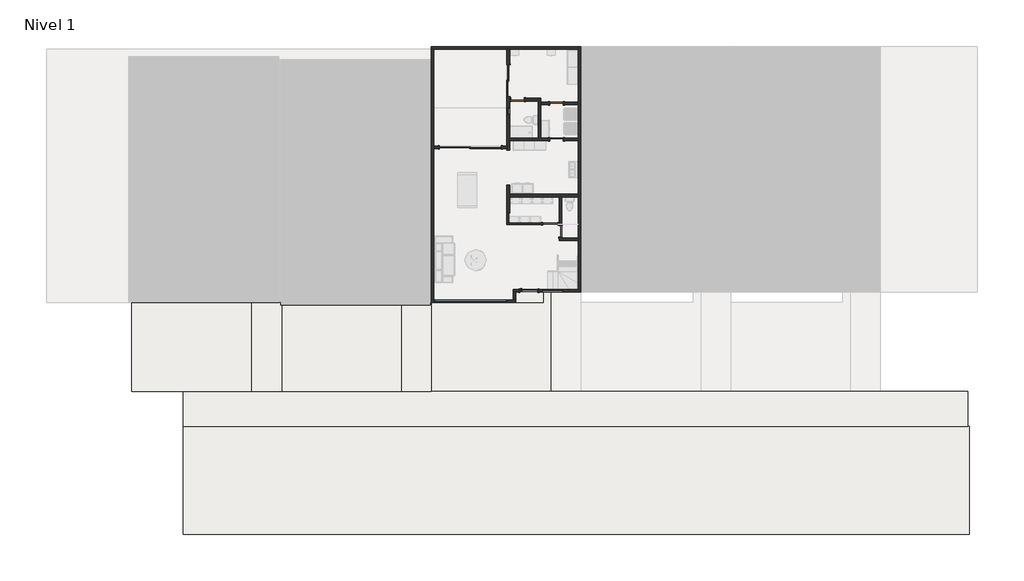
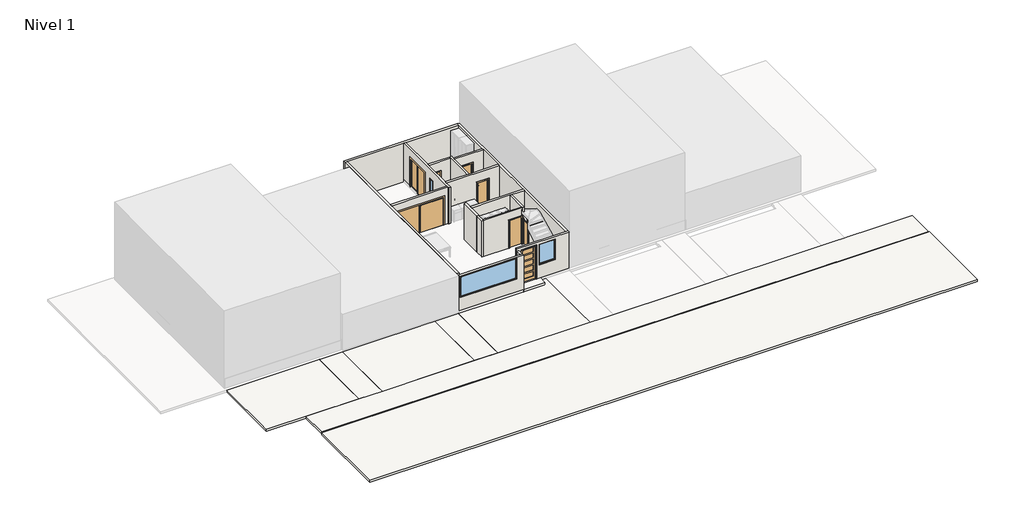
# One storey, part 1 of 2: 18 walls, 8 doors, 8 slabs, 3 windows.
"""IFC4 building model written with IfcOpenShell, lengths in millimetres."""

from ifc_helpers import new_model, si_unit, frame, origin, origin_with_axes, place, context, project, spatial, polyline, outline, extrude, faceted_brep, transform, mapped, element, save
from components import m_puerta_corredera_dos_hojas_1700_x_2000mm_09eee391, m_puerta_corredera_dos_hojas_3_5_x_2_1_a05799e0, m_puerta_interior_simple_5_paneles_vert_madera_m_puerta_cb21d540, m_simple_a_ras_63_ancho_2eab0376, m_simple_a_ras_0762_x_2032mm_3f592dcc, m_simple_a_ras_0762_x_2032mm_ffa3ef71, m_simple_a_ras_0864_x_2134mm_3838e64d, m_fijo_40_x_2_0_2_413fcb28, m_fijo_1_2_x_1_6_cb8421e6, m_fijo_4_1_x_1_6_05132500

model = new_model("IFC4")

# Units and contexts
model_context = context("Model", 3, world=origin())
ifc_project = project(units=[si_unit("LENGTHUNIT", "METRE", prefix="MILLI")], contexts=[model_context])

# Site, building, storey
site = spatial("IfcSite", under=ifc_project)
building = spatial("IfcBuilding", under=site)
storey = spatial("IfcBuildingStorey", under=building, Name="Nivel 1", Elevation=0.0)

# Doors
placement = place(None, origin())
m_puerta_corredera_dos_hojas_1700_x_2000mm_shape = m_puerta_corredera_dos_hojas_1700_x_2000mm_09eee391(model_context)
element("IfcDoor", 1, ObjectType="M_Puerta-Corredera-Dos_hojas : 1700 x 2000mm", at=placement, inside=storey, context=model_context, shape_type="MappedRepresentation", body=[
    mapped(m_puerta_corredera_dos_hojas_1700_x_2000mm_shape, transform((-5417.5352198, 11205.2742772, -38.0), x_axis=(0.0, 1.0, 0.0), y_axis=(-1.0, 0.0, 0.0), z_axis=(0.0, 0.0, 1.0))),
])
m_puerta_corredera_dos_hojas_3_5_x_2_1_shape = m_puerta_corredera_dos_hojas_3_5_x_2_1_a05799e0(model_context)
element("IfcDoor", 2, ObjectType="M_Puerta-Corredera-Dos_hojas : 3.5 x 2.1", at=placement, inside=storey, context=model_context, shape_type="MappedRepresentation", body=[
    mapped(m_puerta_corredera_dos_hojas_3_5_x_2_1_shape, transform((-7682.0352198, 7575.2742772, -38.0), x_axis=(-1.0, 0.0, 0.0), y_axis=(0.0, -1.0, 0.0), z_axis=(0.0, 0.0, 1.0))),
])
m_puerta_interior_simple_5_paneles_vert_madera_m_puerta_shape = m_puerta_interior_simple_5_paneles_vert_madera_m_puerta_cb21d540(model_context)
element("IfcDoor", 3, ObjectType="M_Puerta-Interior-Simple-5_paneles_vert.-Madera : M_Puerta-Interior-Simple-5_paneles_vert.-Madera", at=placement, inside=storey, context=model_context, shape_type="MappedRepresentation", body=[
    mapped(m_puerta_interior_simple_5_paneles_vert_madera_m_puerta_shape, transform((-4380.5352198, -651.5507228, 0.0), x_axis=(1.0, 0.0, 0.0), y_axis=(0.0, 1.0, 0.0), z_axis=(0.0, 0.0, 1.0))),
])
m_simple_a_ras_63_ancho_shape = m_simple_a_ras_63_ancho_2eab0376(model_context)
element("IfcDoor", 4, ObjectType="M_Simple-A ras : .63 ancho", at=placement, inside=storey, context=model_context, shape_type="MappedRepresentation", body=[
    mapped(m_simple_a_ras_63_ancho_shape, transform((-2594.5352198, 2700.2742772, 0.0), x_axis=(0.0, -1.0, 0.0), y_axis=(1.0, 0.0, 0.0), z_axis=(0.0, 0.0, 1.0))),
])
m_simple_a_ras_0762_x_2032mm_shape = m_simple_a_ras_0762_x_2032mm_3f592dcc(model_context)
element("IfcDoor", 5, ObjectType="M_Simple-A ras : 0762 x 2032mm", at=placement, inside=storey, context=model_context, shape_type="MappedRepresentation", body=[
    mapped(m_simple_a_ras_0762_x_2032mm_shape, transform((-2825.5352198, 7905.2742772, 0.0), x_axis=(1.0, 0.0, 0.0), y_axis=(0.0, 1.0, 0.0), z_axis=(0.0, 0.0, 1.0))),
])
element("IfcDoor", 6, ObjectType="M_Simple-A ras : 0762 x 2032mm", at=placement, inside=storey, context=model_context, shape_type="MappedRepresentation", body=[
    mapped(m_simple_a_ras_0762_x_2032mm_shape, transform((-5017.5352198, 10143.2742772, 0.0), x_axis=(-1.0, 0.0, 0.0), y_axis=(0.0, -1.0, 0.0), z_axis=(0.0, 0.0, 1.0))),
])
m_simple_a_ras_0762_x_2032mm_2_shape = m_simple_a_ras_0762_x_2032mm_ffa3ef71(model_context)
element("IfcDoor", 7, ObjectType="M_Simple-A ras : 0762 x 2032mm", at=placement, inside=storey, context=model_context, shape_type="MappedRepresentation", body=[
    mapped(m_simple_a_ras_0762_x_2032mm_2_shape, transform((-2825.5352198, 9925.2742772, 0.0), x_axis=(-1.0, 0.0, 0.0), y_axis=(0.0, -1.0, 0.0), z_axis=(0.0, 0.0, 1.0))),
])
m_simple_a_ras_0864_x_2134mm_shape = m_simple_a_ras_0864_x_2134mm_3838e64d(model_context)
element("IfcDoor", 8, ObjectType="M_Simple-A ras : 0864 x 2134mm", at=placement, inside=storey, context=model_context, shape_type="MappedRepresentation", body=[
    mapped(m_simple_a_ras_0864_x_2134mm_shape, transform((-3178.5352198, 3125.2742772, 0.0), x_axis=(1.0, 0.0, 0.0), y_axis=(0.0, 1.0, 0.0), z_axis=(0.0, 0.0, 1.0))),
])

# Slabs
element("IfcSlab", 9, ObjectType="Genérico 150 mm", at=placement, inside=storey, context=model_context, shape_type="SweptSolid", body=[
    extrude(outline(polyline([(-3557.5352198, -729.7257228), (-3144.5352198, -729.7257228), (-3144.5352198, -6329.7257228), (-9894.5352198, -6329.7257228), (-9894.5352198, -1319.7257228), (-3557.5352198, -1319.7257228), (-3557.5352198, -729.7257228)])), frame((0.0, 0.0, -350.0), z_axis=(0.0, 0.0, 1.0), x_axis=(1.0, 0.0, 0.0)), (0.0, 0.0, 1.0), 150.0),
])
element("IfcSlab", 10, ObjectType="Genérico 150 mm", at=placement, inside=storey, context=model_context, shape_type="SweptSolid", body=[
    extrude(outline(polyline([(-23903.5352198, -6329.7257228), (-9894.5352198, -6329.7257228), (20385.4647802, -6329.7257228), (20385.4647802, -8329.7257228), (-23903.5352198, -8329.7257228), (-23903.5352198, -6329.7257228)])), frame((0.0, 0.0, -350.0), z_axis=(0.0, 0.0, 1.0), x_axis=(1.0, 0.0, 0.0)), (0.0, 0.0, 1.0), 150.0),
])
element("IfcSlab", 11, ObjectType="Genérico 150 mm", at=placement, inside=storey, context=model_context, shape_type="SweptSolid", body=[
    extrude(outline(polyline([(20476.4647802, -8329.7257228), (20476.4647802, -14411.7257228), (-23903.5352198, -14411.7257228), (-23903.5352198, -8329.7257228), (20476.4647802, -8329.7257228)])), frame((0.0, 0.0, -400.0), z_axis=(0.0, 0.0, 1.0), x_axis=(1.0, 0.0, 0.0)), (0.0, 0.0, 1.0), 150.0),
])
element("IfcSlab", 12, ObjectType="Genérico 200mm", at=placement, inside=storey, context=model_context, shape_type="SweptSolid", body=[
    extrude(outline(polyline([(-5114.5352198, -1319.7257228), (-5114.5352198, -729.7257228), (-3557.5352198, -729.7257228), (-3557.5352198, -1319.7257228), (-5114.5352198, -1319.7257228)])), frame((0.0, 0.0, -200.0), z_axis=(0.0, 0.0, 1.0), x_axis=(1.0, 0.0, 0.0)), (0.0, 0.0, 1.0), 200.0),
])
element("IfcSlab", 13, ObjectType="Genérico 150 mm", at=placement, inside=storey, context=model_context, shape_type="SweptSolid", body=[
    extrude(outline(polyline([(-11594.5352198, -1319.7257228), (-11594.5352198, -6329.7257228), (-18344.5352198, -6329.7257228), (-18344.5352198, -1319.7257228), (-12007.5352198, -1319.7257228), (-11594.5352198, -1319.7257228)])), frame((0.0, 0.0, -350.0), z_axis=(0.0, 0.0, 1.0), x_axis=(1.0, 0.0, 0.0)), (0.0, 0.0, 1.0), 150.0),
])
element("IfcSlab", 14, ObjectType="Genérico 150 mm", at=placement, inside=storey, context=model_context, shape_type="SweptSolid", body=[
    extrude(outline(polyline([(-11594.5352198, -1319.7257228), (-9894.5352198, -1319.7257228), (-9894.5352198, -6329.7257228), (-11594.5352198, -6329.7257228), (-11594.5352198, -1319.7257228)])), frame((0.0, 0.0, -350.0), z_axis=(0.0, 0.0, 1.0), x_axis=(1.0, 0.0, 0.0)), (0.0, 0.0, 1.0), 150.0),
])
element("IfcSlab", 15, ObjectType="Genérico 150 mm", at=placement, inside=storey, context=model_context, shape_type="SweptSolid", body=[
    extrude(outline(polyline([(-20044.5352198, -1319.7257228), (-20044.5352198, -6329.7257228), (-26794.5352198, -6329.7257228), (-26794.5352198, -1319.7257228), (-20457.5352198, -1319.7257228), (-20044.5352198, -1319.7257228)])), frame((0.0, 0.0, -350.0), z_axis=(0.0, 0.0, 1.0), x_axis=(1.0, 0.0, 0.0)), (0.0, 0.0, 1.0), 150.0),
])
element("IfcSlab", 16, ObjectType="Genérico 150 mm", at=placement, inside=storey, context=model_context, shape_type="SweptSolid", body=[
    extrude(outline(polyline([(-20044.5352198, -1319.7257228), (-18344.5352198, -1319.7257228), (-18344.5352198, -6329.7257228), (-20044.5352198, -6329.7257228), (-20044.5352198, -1319.7257228)])), frame((0.0, 0.0, -350.0), z_axis=(0.0, 0.0, 1.0), x_axis=(1.0, 0.0, 0.0)), (0.0, 0.0, 1.0), 150.0),
])

# Walls
element("IfcWall", 17, ObjectType="Genérico - 15.00", at=placement, inside=storey, context=model_context, shape_type="Brep", body=[
    faceted_brep([(-1444.5352198, -579.7257228, 0.0), (-1444.5352198, 13145.2742772, 0.0), (-1444.5352198, 13145.2742772, 2800.0), (-1444.5352198, -579.7257228, 2800.0), (-1594.5352198, -579.7257228, 0.0), (-1594.5352198, -579.7257228, 2800.0), (-1594.5352198, 4650.2742772, 2800.0), (-1594.5352198, 4800.2742772, 2800.0), (-1594.5352198, 7830.2742772, 2800.0), (-1594.5352198, 7980.2742772, 2800.0), (-1594.5352198, 9850.2742772, 2800.0), (-1594.5352198, 10000.2742772, 2800.0), (-1594.5352198, 12995.2742772, 2800.0), (-1594.5352198, 13145.2742772, 2800.0), (-1594.5352198, 13145.2742772, 0.0), (-1594.5352198, 10000.2742772, 0.0), (-1594.5352198, 9850.2742772, 0.0), (-1594.5352198, 7980.2742772, 0.0), (-1594.5352198, 7830.2742772, 0.0), (-1594.5352198, 4800.2742772, 0.0), (-1594.5352198, 4650.2742772, 0.0), (-1594.5352198, 2330.2742772, 0.0), (-1594.5352198, 2180.2742772, 0.0)], [[[0, 1, 2, 3]], [[4, 5, 6, 7, 8, 9, 10, 11, 12, 13, 14, 15, 16, 17, 18, 19, 20, 21, 22]], [[1, 0, 4, 22, 21, 20, 19, 18, 17, 16, 15, 14]], [[3, 2, 13, 12, 11, 10, 9, 8, 7, 6, 5]], [[2, 1, 14, 13]], [[0, 3, 5, 4]]]),
])
element("IfcWall", 18, ObjectType="Genérico - 15.00", at=placement, inside=storey, context=model_context, shape_type="Brep", body=[
    faceted_brep([(-1594.5352198, 13145.2742772, -535.1768208), (-9894.5352198, 13145.2742772, -535.1768208), (-9894.5352198, 13145.2742772, 2800.0), (-1594.5352198, 13145.2742772, 2800.0), (-1594.5352198, 13145.2742772, 0.0), (-1594.5352198, 12995.2742772, -535.1768208), (-1594.5352198, 12995.2742772, 2800.0), (-5469.5352198, 12995.2742772, 2800.0), (-5619.5352198, 12995.2742772, 2800.0), (-9744.5352198, 12995.2742772, 2800.0), (-9894.5352198, 12995.2742772, 2800.0), (-9894.5352198, 12995.2742772, -276.0521472), (-9894.5352198, 12995.2742772, -535.1768208)], [[[0, 1, 2, 3, 4]], [[5, 6, 7, 8, 9, 10, 11, 12]], [[1, 0, 5, 12]], [[3, 2, 10, 9, 8, 7, 6]], [[0, 4, 3, 6, 5]], [[2, 1, 12, 11, 10]]]),
])
element("IfcWall", 19, ObjectType="Genérico - 15.00", at=placement, inside=storey, context=model_context, shape_type="Brep", body=[
    faceted_brep([(-9894.5352198, 12995.2742772, -276.0521472), (-9894.5352198, -1169.7257228, -276.0521472), (-9894.5352198, -1169.7257228, 0.0), (-9894.5352198, -1169.7257228, 2650.0), (-9894.5352198, -1169.7257228, 2800.0), (-9894.5352198, 12995.2742772, 2800.0), (-9744.5352198, 12995.2742772, -276.0521472), (-9744.5352198, 12995.2742772, 2800.0), (-9744.5352198, 7523.2742772, 2800.0), (-9744.5352198, 7373.2742772, 2800.0), (-9744.5352198, -1169.7257228, 2800.0), (-9744.5352198, -1169.7257228, -276.0521472)], [[[0, 1, 2, 3, 4, 5]], [[6, 7, 8, 9, 10, 11]], [[1, 0, 6, 11]], [[5, 4, 10, 9, 8, 7]], [[0, 5, 7, 6]], [[4, 3, 2, 1, 11, 10]]]),
])
element("IfcWall", 20, ObjectType="Genérico - 15.00", at=placement, inside=storey, context=model_context, shape_type="SweptSolid", body=[
    extrude(outline(polyline([(0.0, -3714.5352198), (0.0, -3206.5352198), (2032.0, -3206.5352198), (2032.0, -2444.5352198), (0.0, -2444.5352198), (0.0, -1594.5352198), (2800.0, -1594.5352198), (2800.0, -3714.5352198), (0.0, -3714.5352198)])), frame((0.0, 9850.2742772, 0.0), z_axis=(0.0, 1.0, 0.0), x_axis=(0.0, 0.0, 1.0)), (0.0, 0.0, 1.0), 150.0),
])
element("IfcWall", 21, ObjectType="Genérico - 15.00", at=placement, inside=storey, context=model_context, shape_type="Brep", body=[
    faceted_brep([(-1594.5352198, 7980.2742772, 0.0), (-2444.5352198, 7980.2742772, 0.0), (-2444.5352198, 7980.2742772, 2032.0), (-3206.5352198, 7980.2742772, 2032.0), (-3206.5352198, 7980.2742772, 0.0), (-3714.5352198, 7980.2742772, 0.0), (-3864.5352198, 7980.2742772, 0.0), (-5469.5352198, 7980.2742772, 0.0), (-5469.5352198, 7980.2742772, 2800.0), (-3864.5352198, 7980.2742772, 2800.0), (-3714.5352198, 7980.2742772, 2800.0), (-1594.5352198, 7980.2742772, 2800.0), (-2444.5352198, 7830.2742772, 2032.0), (-2444.5352198, 7830.2742772, 0.0), (-1594.5352198, 7830.2742772, 0.0), (-1594.5352198, 7830.2742772, 2800.0), (-5469.5352198, 7830.2742772, 2800.0), (-5469.5352198, 7830.2742772, 0.0), (-3206.5352198, 7830.2742772, 0.0), (-3206.5352198, 7830.2742772, 2032.0)], [[[0, 1, 2, 3, 4, 5, 6, 7, 8, 9, 10, 11]], [[12, 13, 14, 15, 16, 17, 18, 19]], [[18, 17, 7, 6, 5, 4]], [[14, 13, 1, 0]], [[11, 10, 9, 8, 16, 15]], [[0, 11, 15, 14]], [[8, 7, 17, 16]], [[2, 1, 13, 12]], [[3, 2, 12, 19]], [[4, 3, 19, 18]]]),
])
element("IfcWall", 22, ObjectType="Genérico - 15.00", at=placement, inside=storey, context=model_context, shape_type="Brep", body=[
    faceted_brep([(-1594.5352198, 4800.2742772, 0.0), (-5469.5352198, 4800.2742772, 0.0), (-5469.5352198, 4800.2742772, 2800.0), (-1594.5352198, 4800.2742772, 2800.0), (-1594.5352198, 4650.2742772, 0.0), (-1594.5352198, 4650.2742772, 2800.0), (-2519.5352198, 4650.2742772, 2800.0), (-2669.5352198, 4650.2742772, 2800.0), (-5469.5352198, 4650.2742772, 2800.0), (-5469.5352198, 4650.2742772, 0.0), (-2669.5352198, 4650.2742772, 0.0), (-2519.5352198, 4650.2742772, 0.0)], [[[0, 1, 2, 3]], [[4, 5, 6, 7, 8, 9, 10, 11]], [[1, 0, 4, 11, 10, 9]], [[3, 2, 8, 7, 6, 5]], [[0, 3, 5, 4]], [[2, 1, 9, 8]]]),
])
element("IfcWall", 23, ObjectType="Genérico - 15.00", at=placement, inside=storey, context=model_context, shape_type="Brep", body=[
    faceted_brep([(-1594.5352198, 2330.2742772, 0.0), (-2519.5352198, 2330.2742772, 0.0), (-2669.5352198, 2330.2742772, 0.0), (-2669.5352198, 2330.2742772, 1723.3133105), (-2669.5352198, 2330.2742772, 1925.0), (-1594.5352198, 2330.2742772, 1925.0), (-1594.5352198, 2180.2742772, 0.0), (-1594.5352198, 2180.2742772, 1925.0), (-2669.5352198, 2180.2742772, 1925.0), (-2669.5352198, 2180.2742772, 0.0)], [[[0, 1, 2, 3, 4, 5]], [[6, 7, 8, 9]], [[2, 1, 0, 6, 9]], [[5, 4, 8, 7]], [[0, 5, 7, 6]], [[4, 3, 2, 9, 8]]]),
])
element("IfcWall", 24, ObjectType="Genérico - 15.00", at=placement, inside=storey, context=model_context, shape_type="Brep", body=[
    faceted_brep([(-5264.5352198, -579.7257228, 2800.0), (-1594.5352198, -579.7257228, 2800.0), (-1444.5352198, -579.7257228, 2800.0), (-1444.5352198, -579.7257228, 0.0), (-1594.5352198, -579.7257228, 0.0), (-3855.5352198, -579.7257228, 0.0), (-3855.5352198, -579.7257228, 2595.0), (-4905.5352198, -579.7257228, 2595.0), (-4905.5352198, -579.7257228, 0.0), (-5264.5352198, -579.7257228, 0.0), (-3646.5352198, -579.7257228, 2600.0), (-3646.5352198, -579.7257228, 1000.0), (-2446.5352198, -579.7257228, 1000.0), (-2446.5352198, -579.7257228, 2600.0), (-1444.5352198, -729.7257228, 2800.0), (-5264.5352198, -729.7257228, 2800.0), (-5264.5352198, -729.7257228, 2650.0), (-5264.5352198, -729.7257228, 0.0), (-5114.5352198, -729.7257228, 0.0), (-4905.5352198, -729.7257228, 0.0), (-4905.5352198, -729.7257228, 2595.0), (-3855.5352198, -729.7257228, 2595.0), (-3855.5352198, -729.7257228, 0.0), (-1444.5352198, -729.7257228, 0.0), (-3646.5352198, -729.7257228, 1000.0), (-3646.5352198, -729.7257228, 2600.0), (-2446.5352198, -729.7257228, 2600.0), (-2446.5352198, -729.7257228, 1000.0)], [[[0, 1, 2, 3, 4, 5, 6, 7, 8, 9], [10, 11, 12, 13]], [[14, 15, 16, 17, 18, 19, 20, 21, 22, 23], [24, 25, 26, 27]], [[17, 9, 8, 19, 18]], [[3, 23, 22, 5, 4]], [[2, 1, 0, 15, 14]], [[0, 9, 17, 16, 15]], [[24, 11, 10, 25]], [[26, 13, 12, 27]], [[11, 24, 27, 12]], [[13, 26, 25, 10]], [[3, 2, 14, 23]], [[21, 6, 5, 22]], [[6, 21, 20, 7]], [[7, 20, 19, 8]]]),
])
element("IfcWall", 25, ObjectType="Genérico - 15.00", at=placement, inside=storey, context=model_context, shape_type="Brep", body=[
    faceted_brep([(-9894.5352198, -1319.7257228, 0.0), (-5114.5352198, -1319.7257228, 0.0), (-5114.5352198, -1319.7257228, 2650.0), (-9819.5352198, -1319.7257228, 2650.0), (-9894.5352198, -1319.7257228, 2650.0), (-5632.0352198, -1319.7257228, 2600.0), (-5632.0352198, -1319.7257228, 1000.0), (-9732.0352198, -1319.7257228, 1000.0), (-9732.0352198, -1319.7257228, 2600.0), (-5114.5352198, -1169.7257228, 0.0), (-5264.5352198, -1169.7257228, 0.0), (-9894.5352198, -1169.7257228, 0.0), (-9894.5352198, -1169.7257228, 2650.0), (-9819.5352198, -1169.7257228, 2650.0), (-5264.5352198, -1169.7257228, 2650.0), (-5114.5352198, -1169.7257228, 2650.0), (-5632.0352198, -1169.7257228, 1000.0), (-5632.0352198, -1169.7257228, 2600.0), (-9732.0352198, -1169.7257228, 2600.0), (-9732.0352198, -1169.7257228, 1000.0)], [[[0, 1, 2, 3, 4], [5, 6, 7, 8]], [[9, 10, 11, 12, 13, 14, 15], [16, 17, 18, 19]], [[1, 0, 11, 10, 9]], [[2, 1, 9, 15]], [[16, 6, 5, 17]], [[18, 8, 7, 19]], [[6, 16, 19, 7]], [[8, 18, 17, 5]], [[0, 4, 12, 11]], [[12, 4, 3, 13]], [[3, 2, 15, 14, 13]]]),
])
element("IfcWall", 26, ObjectType="Genérico - 15.00", at=placement, inside=storey, context=model_context, shape_type="SweptSolid", body=[
    extrude(outline(polyline([(-5114.5352198, -729.7257228), (-5114.5352198, -1169.7257228), (-5264.5352198, -1169.7257228), (-5264.5352198, -729.7257228), (-5114.5352198, -729.7257228)])), origin_with_axes(), (0.0, 0.0, 1.0), 2650.0),
])
element("IfcWall", 27, ObjectType="Genérico - 15.00", at=placement, inside=storey, context=model_context, shape_type="Brep", body=[
    faceted_brep([(-5619.5352198, 7305.2742772, 0.0), (-5619.5352198, 7305.2742772, 2800.0), (-5619.5352198, 7373.2742772, 2800.0), (-5619.5352198, 7523.2742772, 2800.0), (-5619.5352198, 12995.2742772, 2800.0), (-5619.5352198, 12995.2742772, 0.0), (-5619.5352198, 12105.2742772, 0.0), (-5619.5352198, 12105.2742772, 2162.0), (-5619.5352198, 10305.2742772, 2162.0), (-5619.5352198, 10305.2742772, 0.0), (-5619.5352198, 7523.2742772, 0.0), (-5619.5352198, 7373.2742772, 0.0), (-5619.5352198, 9290.2742772, 2100.0), (-5619.5352198, 9290.2742772, 100.0), (-5619.5352198, 9690.2742772, 100.0), (-5619.5352198, 9690.2742772, 2100.0), (-5469.5352198, 7305.2742772, 2800.0), (-5469.5352198, 7305.2742772, 0.0), (-5469.5352198, 7830.2742772, 0.0), (-5469.5352198, 7980.2742772, 0.0), (-5469.5352198, 10068.2742772, 0.0), (-5469.5352198, 10218.2742772, 0.0), (-5469.5352198, 10305.2742772, 0.0), (-5469.5352198, 10305.2742772, 2162.0), (-5469.5352198, 12105.2742772, 2162.0), (-5469.5352198, 12105.2742772, 0.0), (-5469.5352198, 12995.2742772, 0.0), (-5469.5352198, 12995.2742772, 2800.0), (-5469.5352198, 10218.2742772, 2800.0), (-5469.5352198, 10068.2742772, 2800.0), (-5469.5352198, 7980.2742772, 2800.0), (-5469.5352198, 7830.2742772, 2800.0), (-5469.5352198, 9290.2742772, 100.0), (-5469.5352198, 9290.2742772, 2100.0), (-5469.5352198, 9690.2742772, 2100.0), (-5469.5352198, 9690.2742772, 100.0)], [[[0, 1, 2, 3, 4, 5, 6, 7, 8, 9, 10, 11], [12, 13, 14, 15]], [[16, 17, 18, 19, 20, 21, 22, 23, 24, 25, 26, 27, 28, 29, 30, 31], [32, 33, 34, 35]], [[17, 0, 11, 10, 9, 22, 21, 20, 19, 18]], [[5, 26, 25, 6]], [[1, 0, 17, 16]], [[4, 3, 2, 1, 16, 31, 30, 29, 28, 27]], [[5, 4, 27, 26]], [[8, 23, 22, 9]], [[24, 7, 6, 25]], [[23, 8, 7, 24]], [[32, 13, 12, 33]], [[33, 12, 15, 34]], [[34, 15, 14, 35]], [[13, 32, 35, 14]]]),
])
element("IfcWall", 28, ObjectType="Genérico - 15.00", at=placement, inside=storey, context=model_context, shape_type="Brep", body=[
    faceted_brep([(-3864.5352198, 10218.2742772, 0.0), (-3864.5352198, 10068.2742772, 0.0), (-3864.5352198, 7980.2742772, 0.0), (-3864.5352198, 7980.2742772, 2800.0), (-3864.5352198, 10068.2742772, 2800.0), (-3864.5352198, 10218.2742772, 2800.0), (-3714.5352198, 10218.2742772, 0.0), (-3714.5352198, 10218.2742772, 2800.0), (-3714.5352198, 10000.2742772, 2800.0), (-3714.5352198, 9850.2742772, 2800.0), (-3714.5352198, 7980.2742772, 2800.0), (-3714.5352198, 7980.2742772, 0.0), (-3714.5352198, 9850.2742772, 0.0), (-3714.5352198, 10000.2742772, 0.0)], [[[0, 1, 2, 3, 4, 5]], [[6, 7, 8, 9, 10, 11, 12, 13]], [[2, 1, 0, 6, 13, 12, 11]], [[5, 4, 3, 10, 9, 8, 7]], [[3, 2, 11, 10]], [[0, 5, 7, 6]]]),
])
element("IfcWall", 29, ObjectType="Genérico - 15.00", at=placement, inside=storey, context=model_context, shape_type="Brep", body=[
    faceted_brep([(-5469.5352198, 3725.2742772, 0.0), (-5469.5352198, 4650.2742772, 0.0), (-5469.5352198, 4800.2742772, 0.0), (-5469.5352198, 5325.2742772, 0.0), (-5469.5352198, 5325.2742772, 2800.0), (-5469.5352198, 4800.2742772, 2800.0), (-5469.5352198, 4650.2742772, 2800.0), (-5469.5352198, 3725.2742772, 2800.0), (-5619.5352198, 3725.2742772, 0.0), (-5619.5352198, 3725.2742772, 2800.0), (-5619.5352198, 5325.2742772, 2800.0), (-5619.5352198, 5325.2742772, 0.0), (-5519.5352198, 3725.2742772, 0.0), (-5519.5352198, 3725.2742772, 2800.0)], [[[0, 1, 2, 3, 4, 5, 6, 7]], [[8, 9, 10, 11]], [[3, 2, 1, 0, 12, 8, 11]], [[4, 3, 11, 10]], [[7, 6, 5, 4, 10, 9, 13]], [[0, 7, 13, 9, 8, 12]]]),
])
element("IfcWall", 30, ObjectType="Genérico - 15.00", at=placement, inside=storey, context=model_context, shape_type="Brep", body=[
    faceted_brep([(-2669.5352198, 3075.2742772, 2800.0), (-2669.5352198, 3175.2742772, 2800.0), (-2669.5352198, 4650.2742772, 2800.0), (-2669.5352198, 4650.2742772, 0.0), (-2669.5352198, 3175.2742772, 0.0), (-2669.5352198, 3075.2742772, 0.0), (-2669.5352198, 3025.2742772, 0.0), (-2669.5352198, 3025.2742772, 1950.0), (-2669.5352198, 2678.1052951, 1950.0), (-2669.5352198, 3075.2742772, 2208.8409806), (-2519.5352198, 4650.2742772, 2800.0), (-2519.5352198, 3075.2742772, 2800.0), (-2519.5352198, 3075.2742772, 2208.8409806), (-2519.5352198, 2678.1052951, 1950.0), (-2519.5352198, 3025.2742772, 1950.0), (-2519.5352198, 3025.2742772, 0.0), (-2519.5352198, 4650.2742772, 0.0)], [[[0, 1, 2, 3, 4, 5, 6, 7, 8, 9]], [[10, 11, 12, 13, 14, 15, 16]], [[3, 2, 10, 16]], [[3, 16, 15, 6, 5, 4]], [[2, 1, 0, 11, 10]], [[12, 9, 8, 13]], [[0, 9, 12, 11]], [[7, 14, 13, 8]], [[14, 7, 6, 15]]]),
    faceted_brep([(-2669.5352198, 2330.2742772, 0.0), (-2669.5352198, 2330.2742772, 1723.3133105), (-2669.5352198, 2375.2742772, 1752.6404852), (-2669.5352198, 2375.2742772, 0.0), (-2519.5352198, 2330.2742772, 1723.3133105), (-2519.5352198, 2330.2742772, 0.0), (-2519.5352198, 2375.2742772, 0.0), (-2519.5352198, 2375.2742772, 1752.6404852)], [[[0, 1, 2, 3]], [[4, 5, 6, 7]], [[1, 0, 5, 4]], [[5, 0, 3, 6]], [[1, 4, 7, 2]], [[3, 2, 7, 6]]]),
])
element("IfcWall", 31, ObjectType="Genérico - 10.00", at=placement, inside=storey, context=model_context, shape_type="Brep", body=[
    faceted_brep([(-5619.5352198, 3725.2742772, 0.0), (-5619.5352198, 3075.2742772, 0.0), (-5619.5352198, 3075.2742772, 2800.0), (-5619.5352198, 3725.2742772, 2800.0), (-5519.5352198, 3725.2742772, 0.0), (-5519.5352198, 3725.2742772, 2800.0), (-5519.5352198, 3175.2742772, 2800.0), (-5519.5352198, 3075.2742772, 2800.0), (-5519.5352198, 3075.2742772, 0.0), (-5519.5352198, 3175.2742772, 0.0)], [[[0, 1, 2, 3]], [[4, 5, 6, 7, 8, 9]], [[1, 0, 4, 9, 8]], [[3, 2, 7, 6, 5]], [[0, 3, 5, 4]], [[2, 1, 8, 7]]]),
])
element("IfcWall", 32, ObjectType="Genérico - 10.00", at=placement, inside=storey, context=model_context, shape_type="Brep", body=[
    faceted_brep([(-2746.5352198, 3075.2742772, 2134.0), (-2746.5352198, 3075.2742772, 0.0), (-2669.5352198, 3075.2742772, 0.0), (-2669.5352198, 3075.2742772, 2208.8409806), (-2669.5352198, 3075.2742772, 2800.0), (-5519.5352198, 3075.2742772, 2800.0), (-5519.5352198, 3075.2742772, 0.0), (-3610.5352198, 3075.2742772, 0.0), (-3610.5352198, 3075.2742772, 2134.0), (-2669.5352198, 3175.2742772, 0.0), (-2746.5352198, 3175.2742772, 0.0), (-2746.5352198, 3175.2742772, 2134.0), (-3610.5352198, 3175.2742772, 2134.0), (-3610.5352198, 3175.2742772, 0.0), (-5519.5352198, 3175.2742772, 0.0), (-5519.5352198, 3175.2742772, 2800.0), (-2669.5352198, 3175.2742772, 2800.0)], [[[0, 1, 2, 3, 4, 5, 6, 7, 8]], [[9, 10, 11, 12, 13, 14, 15, 16]], [[7, 6, 14, 13]], [[2, 1, 10, 9]], [[5, 4, 16, 15]], [[6, 5, 15, 14]], [[2, 9, 16, 4, 3]], [[11, 10, 1, 0]], [[12, 11, 0, 8]], [[13, 12, 8, 7]]]),
])
element("IfcWall", 33, ObjectType="Genérico - 15.00", at=placement, inside=storey, context=model_context, shape_type="SweptSolid", body=[
    extrude(outline(polyline([(2800.0, -5619.5352198), (2800.0, -9744.5352198), (0.0, -9744.5352198), (0.0, -9432.0352198), (2162.0, -9432.0352198), (2162.0, -5932.0352198), (0.0, -5932.0352198), (0.0, -5619.5352198), (2800.0, -5619.5352198)])), frame((0.0, 7373.2742772, 0.0), z_axis=(0.0, 1.0, 0.0), x_axis=(0.0, 0.0, 1.0)), (0.0, 0.0, 1.0), 150.0),
])
element("IfcWall", 34, ObjectType="Genérico - 15.00", at=placement, inside=storey, context=model_context, shape_type="SweptSolid", body=[
    extrude(outline(polyline([(0.0, -5469.5352198), (0.0, -5398.5352198), (2032.0, -5398.5352198), (2032.0, -4636.5352198), (0.0, -4636.5352198), (0.0, -3864.5352198), (2800.0, -3864.5352198), (2800.0, -5469.5352198), (0.0, -5469.5352198)])), frame((0.0, 10068.2742772, 0.0), z_axis=(0.0, 1.0, 0.0), x_axis=(0.0, 0.0, 1.0)), (0.0, 0.0, 1.0), 150.0),
])

# Windows
m_fijo_40_x_2_0_2_shape = m_fijo_40_x_2_0_2_413fcb28(model_context)
element("IfcWindow", 35, ObjectType="M_Fijo : .40 X 2.0 2", at=placement, inside=storey, context=model_context, shape_type="MappedRepresentation", body=[
    mapped(m_fijo_40_x_2_0_2_shape, transform((-5531.5352198, 9490.2742772, -815.0), x_axis=(0.0, 1.0, 0.0), y_axis=(-1.0, 0.0, 0.0), z_axis=(0.0, 0.0, 1.0))),
])
m_fijo_1_2_x_1_6_shape = m_fijo_1_2_x_1_6_cb8421e6(model_context)
element("IfcWindow", 36, ObjectType="M_Fijo : 1.2 x 1.6", at=placement, inside=storey, context=model_context, shape_type="MappedRepresentation", body=[
    mapped(m_fijo_1_2_x_1_6_shape, transform((-3046.5352198, -667.7257228, 85.0), x_axis=(1.0, 0.0, 0.0), y_axis=(0.0, 1.0, 0.0), z_axis=(0.0, 0.0, 1.0))),
])
m_fijo_4_1_x_1_6_shape = m_fijo_4_1_x_1_6_05132500(model_context)
element("IfcWindow", 37, ObjectType="M_Fijo : 4.1 x 1.6", at=placement, inside=storey, context=model_context, shape_type="MappedRepresentation", body=[
    mapped(m_fijo_4_1_x_1_6_shape, transform((-7682.0352198, -1231.7257228, 85.0), x_axis=(-1.0, 0.0, 0.0), y_axis=(0.0, -1.0, 0.0), z_axis=(0.0, 0.0, 1.0))),
])

save(model, "model.ifc")
